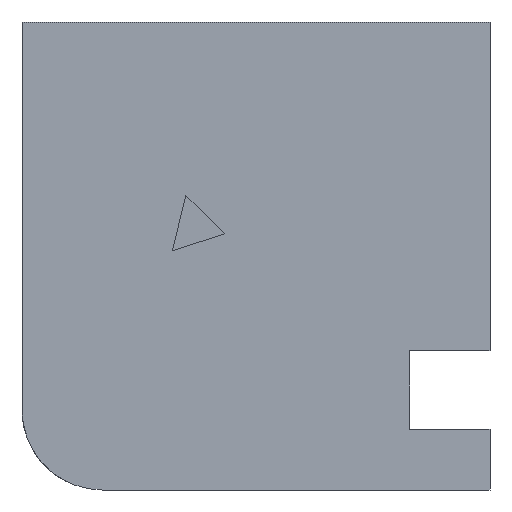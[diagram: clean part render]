
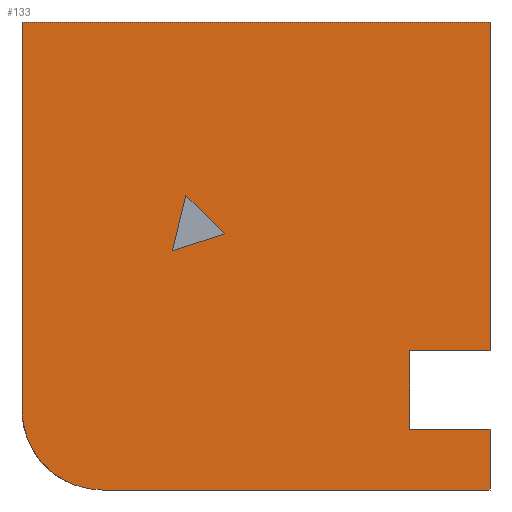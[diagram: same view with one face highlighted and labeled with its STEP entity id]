
A CAD part, front view. The second image highlights one B-rep face of the part: STEP entity #133.
In plain terms, the highlighted planar face has unit normal (0, -1, 0).
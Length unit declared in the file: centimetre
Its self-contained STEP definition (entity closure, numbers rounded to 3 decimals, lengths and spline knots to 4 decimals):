
#19 = VECTOR ( 'NONE', #1139, 100. ) ;
#43 = LINE ( 'NONE', #74, #741 ) ;
#72 = ORIENTED_EDGE ( 'NONE', *, *, #363, .T. ) ;
#74 = CARTESIAN_POINT ( 'NONE',  ( 433.0603, 0., 547.317 ) ) ;
#81 = ORIENTED_EDGE ( 'NONE', *, *, #1107, .F. ) ;
#82 = ORIENTED_EDGE ( 'NONE', *, *, #232, .F. ) ;
#85 = LINE ( 'NONE', #600, #1309 ) ;
#89 = VERTEX_POINT ( 'NONE', #105 ) ;
#92 = DIRECTION ( 'NONE',  ( 0., 0., 1. ) ) ;
#93 = VERTEX_POINT ( 'NONE', #1236 ) ;
#95 = DIRECTION ( 'NONE',  ( 0.952, 0., 0.308 ) ) ;
#105 = CARTESIAN_POINT ( 'NONE',  ( 0., 0., 1000. ) ) ;
#129 = FACE_OUTER_BOUND ( 'NONE', #193, .T. ) ;
#133 = ADVANCED_FACE ( 'NONE', ( #223, #129 ), #953, .F. ) ;
#134 = CARTESIAN_POINT ( 'NONE',  ( 1000., 0., 129.3377 ) ) ;
#146 = CARTESIAN_POINT ( 'NONE',  ( 350.124, 0., 630.2532 ) ) ;
#171 = LINE ( 'NONE', #1026, #19 ) ;
#193 = EDGE_LOOP ( 'NONE', ( #1245, #259, #902, #844, #881, #1165, #72, #81, #512 ) ) ;
#203 = VERTEX_POINT ( 'NONE', #1281 ) ;
#223 = FACE_BOUND ( 'NONE', #332, .T. ) ;
#232 = EDGE_CURVE ( 'NONE', #1138, #968, #43, .T. ) ;
#247 = LINE ( 'NONE', #868, #1243 ) ;
#259 = ORIENTED_EDGE ( 'NONE', *, *, #784, .F. ) ;
#270 = VERTEX_POINT ( 'NONE', #272 ) ;
#272 = CARTESIAN_POINT ( 'NONE',  ( 828.9653, 0., 297.7861 ) ) ;
#297 = CIRCLE ( 'NONE', #1123, 171.7502 ) ;
#308 = DIRECTION ( 'NONE',  ( 0., 0., -1. ) ) ;
#331 = CARTESIAN_POINT ( 'NONE',  ( 0., 0., 1000. ) ) ;
#332 = EDGE_LOOP ( 'NONE', ( #1104, #837, #82 ) ) ;
#333 = CARTESIAN_POINT ( 'NONE',  ( 0., 0., 1000. ) ) ;
#335 = EDGE_CURVE ( 'NONE', #488, #622, #297, .T. ) ;
#362 = LINE ( 'NONE', #776, #742 ) ;
#363 = EDGE_CURVE ( 'NONE', #622, #93, #1114, .T. ) ;
#365 = VERTEX_POINT ( 'NONE', #717 ) ;
#382 = CARTESIAN_POINT ( 'NONE',  ( 0., 0., 171.7502 ) ) ;
#385 = VERTEX_POINT ( 'NONE', #811 ) ;
#392 = CARTESIAN_POINT ( 'NONE',  ( 321.3115, 0., 511.1972 ) ) ;
#436 = LINE ( 'NONE', #333, #1312 ) ;
#482 = DIRECTION ( 'NONE',  ( -0.707, 0., 0.707 ) ) ;
#488 = VERTEX_POINT ( 'NONE', #382 ) ;
#512 = ORIENTED_EDGE ( 'NONE', *, *, #875, .F. ) ;
#518 = VERTEX_POINT ( 'NONE', #1109 ) ;
#526 = VECTOR ( 'NONE', #649, 100. ) ;
#534 = EDGE_CURVE ( 'NONE', #518, #1138, #575, .T. ) ;
#538 = VECTOR ( 'NONE', #1023, 100. ) ;
#559 = DIRECTION ( 'NONE',  ( 0., 0., -1. ) ) ;
#571 = EDGE_CURVE ( 'NONE', #270, #203, #1237, .T. ) ;
#575 = LINE ( 'NONE', #392, #1332 ) ;
#600 = CARTESIAN_POINT ( 'NONE',  ( 1000., 0., 1000. ) ) ;
#606 = CARTESIAN_POINT ( 'NONE',  ( 171.7502, 0., 171.7502 ) ) ;
#622 = VERTEX_POINT ( 'NONE', #715 ) ;
#649 = DIRECTION ( 'NONE',  ( -1., 0., 0. ) ) ;
#666 = LINE ( 'NONE', #847, #526 ) ;
#679 = DIRECTION ( 'NONE',  ( 1., 0., 0. ) ) ;
#715 = CARTESIAN_POINT ( 'NONE',  ( 171.7502, 0., 0. ) ) ;
#717 = CARTESIAN_POINT ( 'NONE',  ( 1000., 0., 1000. ) ) ;
#718 = VECTOR ( 'NONE', #559, 100. ) ;
#741 = VECTOR ( 'NONE', #482, 100. ) ;
#742 = VECTOR ( 'NONE', #679, 100. ) ;
#776 = CARTESIAN_POINT ( 'NONE',  ( 828.9653, 0., 129.3377 ) ) ;
#784 = EDGE_CURVE ( 'NONE', #385, #270, #666, .T. ) ;
#811 = CARTESIAN_POINT ( 'NONE',  ( 1000., 0., 297.7861 ) ) ;
#813 = VERTEX_POINT ( 'NONE', #134 ) ;
#824 = DIRECTION ( 'NONE',  ( 0., 0., -1. ) ) ;
#825 = AXIS2_PLACEMENT_3D ( 'NONE', #331, #856, #1059 ) ;
#837 = ORIENTED_EDGE ( 'NONE', *, *, #1296, .F. ) ;
#844 = ORIENTED_EDGE ( 'NONE', *, *, #849, .F. ) ;
#847 = CARTESIAN_POINT ( 'NONE',  ( 828.9653, 0., 297.7861 ) ) ;
#849 = EDGE_CURVE ( 'NONE', #89, #365, #436, .T. ) ;
#850 = DIRECTION ( 'NONE',  ( 1., 0., 0. ) ) ;
#856 = DIRECTION ( 'NONE',  ( 0., 1., 0. ) ) ;
#868 = CARTESIAN_POINT ( 'NONE',  ( 350.124, 0., 630.2532 ) ) ;
#875 = EDGE_CURVE ( 'NONE', #203, #813, #362, .T. ) ;
#881 = ORIENTED_EDGE ( 'NONE', *, *, #976, .T. ) ;
#902 = ORIENTED_EDGE ( 'NONE', *, *, #1142, .F. ) ;
#943 = VECTOR ( 'NONE', #824, 100. ) ;
#953 = PLANE ( 'NONE',  #825 ) ;
#966 = LINE ( 'NONE', #1067, #718 ) ;
#968 = VERTEX_POINT ( 'NONE', #146 ) ;
#976 = EDGE_CURVE ( 'NONE', #89, #488, #966, .T. ) ;
#987 = DIRECTION ( 'NONE',  ( -0.235, 0., -0.972 ) ) ;
#1023 = DIRECTION ( 'NONE',  ( 1., 0., 0. ) ) ;
#1026 = CARTESIAN_POINT ( 'NONE',  ( 1000., 0., 1000. ) ) ;
#1059 = DIRECTION ( 'NONE',  ( 0., 0., 1. ) ) ;
#1067 = CARTESIAN_POINT ( 'NONE',  ( 0., 0., 1000. ) ) ;
#1104 = ORIENTED_EDGE ( 'NONE', *, *, #534, .F. ) ;
#1107 = EDGE_CURVE ( 'NONE', #813, #93, #85, .T. ) ;
#1109 = CARTESIAN_POINT ( 'NONE',  ( 321.3115, 0., 511.1972 ) ) ;
#1114 = LINE ( 'NONE', #1229, #538 ) ;
#1123 = AXIS2_PLACEMENT_3D ( 'NONE', #606, #1326, #92 ) ;
#1138 = VERTEX_POINT ( 'NONE', #1235 ) ;
#1139 = DIRECTION ( 'NONE',  ( 0., 0., -1. ) ) ;
#1142 = EDGE_CURVE ( 'NONE', #365, #385, #171, .T. ) ;
#1165 = ORIENTED_EDGE ( 'NONE', *, *, #335, .T. ) ;
#1229 = CARTESIAN_POINT ( 'NONE',  ( 0., 0., 0. ) ) ;
#1235 = CARTESIAN_POINT ( 'NONE',  ( 433.0603, 0., 547.317 ) ) ;
#1236 = CARTESIAN_POINT ( 'NONE',  ( 1000., 0., 0. ) ) ;
#1237 = LINE ( 'NONE', #1242, #943 ) ;
#1242 = CARTESIAN_POINT ( 'NONE',  ( 828.9653, 0., 129.3377 ) ) ;
#1243 = VECTOR ( 'NONE', #987, 100. ) ;
#1245 = ORIENTED_EDGE ( 'NONE', *, *, #571, .F. ) ;
#1281 = CARTESIAN_POINT ( 'NONE',  ( 828.9653, 0., 129.3377 ) ) ;
#1296 = EDGE_CURVE ( 'NONE', #968, #518, #247, .T. ) ;
#1309 = VECTOR ( 'NONE', #308, 100. ) ;
#1312 = VECTOR ( 'NONE', #850, 100. ) ;
#1326 = DIRECTION ( 'NONE',  ( 0., -1., 0. ) ) ;
#1332 = VECTOR ( 'NONE', #95, 100. ) ;
